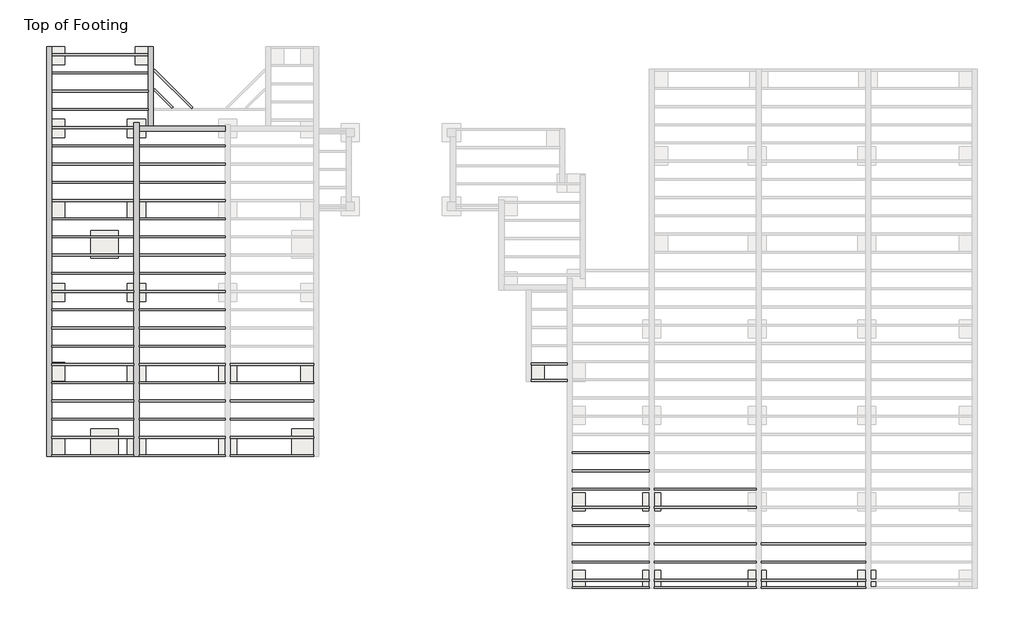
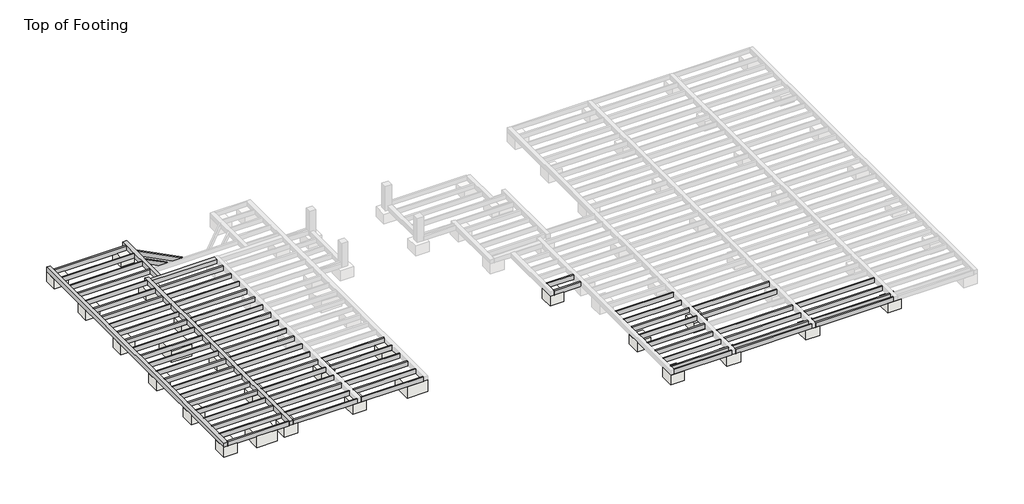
# One storey, part 1 of 3: 74 beams, 25 slabs.
"""IFC4 building model written with IfcOpenShell, lengths in millimetres."""

import ifcopenshell
import ifcopenshell.guid

model = None  # the IFC model being written
_history = None  # IfcOwnerHistory: only IFC2X3 demands one
_inside = {}  # id of a spatial element -> (the spatial element, [elements in it])
_under = {}  # id of a project, library or spatial element -> (it, [spatial elements below it])
_declared = {}  # id of a project -> (the project, [libraries it declares])
_typed = {}  # id of a type object -> (the type object, [elements of that type])
_made_of = {}  # id of a material, layer set ... -> (it, [elements and type objects made of it])


def new_model(schema):
    """Start an empty IFC model of exactly this schema.

    Asked for "IFC4X3", IfcOpenShell would pick the latest addendum, in which some entities
    have other attributes; the version numbers below select the first issue.
    IFC2X3 requires an IfcOwnerHistory on every rooted entity: one is made here for all.
    """
    global model, _history
    if schema == "IFC4X3":
        model = ifcopenshell.file(schema_version=(4, 3, 0, 0))
    else:
        model = ifcopenshell.file(schema=schema)
    _inside.clear()
    _under.clear()
    _declared.clear()
    _typed.clear()
    _made_of.clear()
    _history = None
    if model.schema == "IFC2X3":
        org = make("IfcOrganization", Name="unknown")
        user = make(
            "IfcPersonAndOrganization",
            ThePerson=make("IfcPerson", FamilyName="unknown"),
            TheOrganization=org,
        )
        app = make(
            "IfcApplication",
            ApplicationDeveloper=org,
            Version="unknown",
            ApplicationFullName="unknown",
            ApplicationIdentifier="unknown",
        )
        _history = make(
            "IfcOwnerHistory",
            OwningUser=user,
            OwningApplication=app,
            ChangeAction="ADDED",
            CreationDate=0,
        )
    return model


def make(cls, **values):
    """One entity of the class cls with the attributes given. An attribute that is None is left unset."""
    return model.create_entity(
        cls, **{name: value for name, value in values.items() if value is not None}
    )


def rooted(cls, **values):
    """An entity with a GlobalId (a new one), such as an element, a storey or a relation."""
    return make(cls, GlobalId=ifcopenshell.guid.new(), OwnerHistory=_history, **values)


def si_unit(unit_type, name, prefix=None):
    """IfcSIUnit, for example si_unit("LENGTHUNIT", "METRE", prefix="MILLI")."""
    return make("IfcSIUnit", UnitType=unit_type, Prefix=prefix, Name=name)


def assignment(units):
    """IfcUnitAssignment: the units of a project."""
    return None if units is None else make("IfcUnitAssignment", Units=units)


def point(xyz):
    """IfcCartesianPoint."""
    return None if xyz is None else make("IfcCartesianPoint", Coordinates=xyz)


def direction(xyz):
    """IfcDirection."""
    return None if xyz is None else make("IfcDirection", DirectionRatios=xyz)


def frame(location, z_axis=None, x_axis=None):
    """IfcAxis2Placement3D, a coordinate frame: its origin and axes. An axis left out is left unset."""
    return make(
        "IfcAxis2Placement3D",
        Location=point(location),
        Axis=direction(z_axis),
        RefDirection=direction(x_axis),
    )


def origin():
    """The frame at (0, 0, 0) with its axes left unset."""
    return frame((0.0, 0.0, 0.0))


def place(relative_to, where):
    """IfcLocalPlacement: puts the frame where relative to a parent placement (None: the world)."""
    return make(
        "IfcLocalPlacement", PlacementRelTo=relative_to, RelativePlacement=where
    )


def context(
    kind, dimensions, precision=None, world=None, true_north=None, identifier=None
):
    """IfcGeometricRepresentationContext, for example the 3D "Model" context."""
    return make(
        "IfcGeometricRepresentationContext",
        ContextIdentifier=identifier,
        ContextType=kind,
        CoordinateSpaceDimension=dimensions,
        Precision=precision,
        WorldCoordinateSystem=world,
        TrueNorth=true_north,
    )


def project(units=None, contexts=None):
    """IfcProject with its units and contexts."""
    return rooted(
        "IfcProject",
        Name="project",
        RepresentationContexts=contexts,
        UnitsInContext=assignment(units),
    )


def spatial(cls, under=None, at=None, **own):
    """A site, building, storey or space (cls), placed at a placement, below another one or the project."""
    s = rooted(cls, ObjectPlacement=at, **own)
    if under is not None:
        _under.setdefault(under.id(), (under, []))[1].append(s)
    return s


def polyline(points):
    """IfcPolyline through the points."""
    return make("IfcPolyline", Points=[point(p) for p in points])


def outline(outer, holes=None, kind="AREA"):
    """IfcArbitraryClosedProfileDef: a profile drawn as a closed curve; with holes, ...WithVoids."""
    if holes is None:
        return make("IfcArbitraryClosedProfileDef", ProfileType=kind, OuterCurve=outer)
    return make(
        "IfcArbitraryProfileDefWithVoids",
        ProfileType=kind,
        OuterCurve=outer,
        InnerCurves=holes,
    )


def extrude(swept, where, along, depth):
    """IfcExtrudedAreaSolid: the profile swept, set in the frame where, extruded along a direction by depth."""
    return make(
        "IfcExtrudedAreaSolid",
        SweptArea=swept,
        Position=where,
        ExtrudedDirection=direction(along),
        Depth=depth,
    )


def shape(context_of_items, identifier, shape_type, items):
    """IfcShapeRepresentation: the items that make up one representation, for example the "Body"."""
    return make(
        "IfcShapeRepresentation",
        ContextOfItems=context_of_items,
        RepresentationIdentifier=identifier,
        RepresentationType=shape_type,
        Items=items,
    )


def source(mapping_origin, context_of_items, identifier, shape_type, items):
    """IfcRepresentationMap: a shape defined once, which mapped items show again and again."""
    return make(
        "IfcRepresentationMap",
        MappingOrigin=mapping_origin,
        MappedRepresentation=shape(context_of_items, identifier, shape_type, items),
    )


def transform(
    local_origin,
    x_axis=None,
    y_axis=None,
    z_axis=None,
    scale=None,
    scale2=None,
    scale3=None,
    uniform=True,
):
    """IfcCartesianTransformationOperator3D, or its non-uniform kind. x_axis, y_axis, z_axis: its Axis1, 2, 3."""
    if uniform:
        return make(
            "IfcCartesianTransformationOperator3D",
            Axis1=direction(x_axis),
            Axis2=direction(y_axis),
            LocalOrigin=point(local_origin),
            Scale=scale,
            Axis3=direction(z_axis),
        )
    return make(
        "IfcCartesianTransformationOperator3DnonUniform",
        Axis1=direction(x_axis),
        Axis2=direction(y_axis),
        LocalOrigin=point(local_origin),
        Scale=scale,
        Axis3=direction(z_axis),
        Scale2=scale2,
        Scale3=scale3,
    )


def mapped(mapping_source, mapping_target):
    """IfcMappedItem: shows the shape of a source again, moved by a transform."""
    return make(
        "IfcMappedItem", MappingSource=mapping_source, MappingTarget=mapping_target
    )


def made_of(thing, what):
    """Note that an element or type object is made of a material, layer set ...; save() writes the relation."""
    if what is not None:
        _made_of.setdefault(what.id(), (what, []))[1].append(thing)
    return thing


def element(
    cls,
    number,
    at=None,
    inside=None,
    cuts=None,
    type_object=None,
    material=None,
    context=None,
    identifier="Body",
    shape_type=None,
    held_by="IfcProductDefinitionShape",
    body=None,
    shapes=None,
    **own,
):
    """One element of the class cls, such as IfcWall. Its Tag is "e" and its number.

    at: its placement. inside: the storey or other place that contains it. cuts: it is an
    opening in that element (IfcRelVoidsElement). A single representation is given by context,
    identifier, shape_type and body (its items); several are given by shapes. held_by: the class
    of the entity that holds the representations. save() writes the other relations.
    """
    e = rooted(cls, Tag="e%d" % number, ObjectPlacement=at, **own)
    if body is not None:
        shapes = [shape(context, identifier, shape_type, body)]
    if shapes is not None:
        e.Representation = make(held_by, Representations=shapes)
    if inside is not None:
        _inside.setdefault(inside.id(), (inside, []))[1].append(e)
    if cuts is not None:
        rooted(
            "IfcRelVoidsElement", RelatingBuildingElement=cuts, RelatedOpeningElement=e
        )
    if type_object is not None:
        _typed.setdefault(type_object.id(), (type_object, []))[1].append(e)
    return made_of(e, material)


def aggregate(whole, parts):
    """IfcRelAggregates: a whole, such as a stair, and the parts it consists of."""
    return rooted("IfcRelAggregates", RelatingObject=whole, RelatedObjects=parts)


def save(model, path):
    """Write the relations noted so far, then the file.

    IfcRelAggregates (storeys below a building ...), IfcRelContainedInSpatialStructure (elements
    in a storey), IfcRelDefinesByType, IfcRelAssociatesMaterial and IfcRelDeclares: one each for
    every whole, place, type object, material and project.
    """
    for whole, parts in _under.values():
        aggregate(whole, parts)
    for where, things in _inside.values():
        rooted(
            "IfcRelContainedInSpatialStructure",
            RelatedElements=things,
            RelatingStructure=where,
        )
    for kind, things in _typed.values():
        rooted("IfcRelDefinesByType", RelatedObjects=things, RelatingType=kind)
    for what, things in _made_of.values():
        rooted("IfcRelAssociatesMaterial", RelatedObjects=things, RelatingMaterial=what)
    for by, libraries in _declared.values():
        rooted("IfcRelDeclares", RelatingContext=by, RelatedDefinitions=libraries)
    model.write(path)


def dimension_lumber_1_2x_x6_dd3bafa6(model_context):
    return source(origin(), model_context, "Body", "SweptSolid", [
        extrude(outline(polyline([(958.85, 19.05), (958.85, -19.05), (-958.85, -19.05), (-958.85, 19.05), (958.85, 19.05)])), frame((0.0, 0.0, -69.85), z_axis=(0.0, 0.0, 1.0), x_axis=(1.0, 0.0, 0.0)), (0.0, 0.0, 1.0), 139.7),
    ])


def dimension_lumber_1_2x_x6_aa5b3a59(model_context):
    return source(origin(), model_context, "Body", "SweptSolid", [
        extrude(outline(polyline([(917.575, 19.05), (917.575, -19.05), (-917.575, -19.05), (-917.575, 19.05), (917.575, 19.05)])), frame((0.0, 0.0, -69.85), z_axis=(0.0, 0.0, 1.0), x_axis=(1.0, 0.0, 0.0)), (0.0, 0.0, 1.0), 139.7),
    ])


def dimension_lumber_1_2x_x6_194c576a(model_context):
    return source(origin(), model_context, "Body", "SweptSolid", [
        extrude(outline(polyline([(1162.05, 19.05), (1162.05, -19.05), (-1162.05, -19.05), (-1162.05, 19.05), (1162.05, 19.05)])), frame((0.0, 0.0, -69.85), z_axis=(0.0, 0.0, 1.0), x_axis=(1.0, 0.0, 0.0)), (0.0, 0.0, 1.0), 139.7),
    ])


def dimension_lumber_1_2x_x6_e8a41e7e(model_context):
    return source(origin(), model_context, "Body", "SweptSolid", [
        extrude(outline(polyline([(930.275, 19.05), (930.275, -19.05), (-930.275, -19.05), (-930.275, 19.05), (930.275, 19.05)])), frame((0.0, 0.0, -69.85), z_axis=(0.0, 0.0, 1.0), x_axis=(1.0, 0.0, 0.0)), (0.0, 0.0, 1.0), 139.7),
    ])


def dimension_lumber_1_2x_x6_92016964(model_context):
    return source(origin(), model_context, "Body", "SweptSolid", [
        extrude(outline(polyline([(574.2575614, -19.05), (-628.1390981, -19.05), (-628.1390981, 19.05), (574.2575614, 19.05), (574.2575614, -19.05)])), frame((0.0, 0.0, -69.85), z_axis=(0.0, 0.0, 1.0), x_axis=(1.0, 0.0, 0.0)), (0.0, 0.0, 1.0), 139.7),
    ])


def dimension_lumber_1_2x_x6_3ebd03bc(model_context):
    return source(origin(), model_context, "Body", "SweptSolid", [
        extrude(outline(polyline([(270.1501681, -19.05), (-315.3180038, -19.05), (-315.3180038, 19.05), (270.1501681, 19.05), (270.1501681, -19.05)])), frame((0.0, 0.0, -69.85), z_axis=(0.0, 0.0, 1.0), x_axis=(1.0, 0.0, 0.0)), (0.0, 0.0, 1.0), 139.7),
    ])


def dimension_lumber_1_2x_x6_848c9500(model_context):
    return source(origin(), model_context, "Body", "SweptSolid", [
        extrude(outline(polyline([(857.25, 19.05), (857.25, -19.05), (-857.25, -19.05), (-857.25, 19.05), (857.25, 19.05)])), frame((0.0, 0.0, -69.85), z_axis=(0.0, 0.0, 1.0), x_axis=(1.0, 0.0, 0.0)), (0.0, 0.0, 1.0), 139.7),
    ])


def dimension_lumber_1_2x_x6_d0225624(model_context):
    return source(origin(), model_context, "Body", "SweptSolid", [
        extrude(outline(polyline([(400.05, 19.05), (400.05, -19.05), (-400.05, -19.05), (-400.05, 19.05), (400.05, 19.05)])), frame((0.0, 0.0, -69.85), z_axis=(0.0, 0.0, 1.0), x_axis=(1.0, 0.0, 0.0)), (0.0, 0.0, 1.0), 139.7),
    ])


def dimension_lumber_1_2x_x6_9289383a(model_context):
    return source(origin(), model_context, "Body", "SweptSolid", [
        extrude(outline(polyline([(1133.475, 19.05), (1133.475, -19.05), (-1133.475, -19.05), (-1133.475, 19.05), (1133.475, 19.05)])), frame((0.0, 0.0, -69.85), z_axis=(0.0, 0.0, 1.0), x_axis=(1.0, 0.0, 0.0)), (0.0, 0.0, 1.0), 139.7),
    ])


def dimension_lumber_1_2x_x6_97439537(model_context):
    return source(origin(), model_context, "Body", "SweptSolid", [
        extrude(outline(polyline([(1076.8076, 19.05), (1076.8076, -19.05), (-1076.8076, -19.05), (-1076.8076, 19.05), (1076.8076, 19.05)])), frame((0.0, 0.0, -69.85), z_axis=(0.0, 0.0, 1.0), x_axis=(1.0, 0.0, 0.0)), (0.0, 0.0, 1.0), 139.7),
    ])


def dimension_lumber_3_2x_x6_4af72cf2(model_context):
    return source(origin(), model_context, "Body", "SweptSolid", [
        extrude(outline(polyline([(3796.2332, 57.15), (3796.2332, -57.15), (-3648.6662069, -57.15), (-3648.6662069, 57.15), (3796.2332, 57.15)])), frame((0.0, 0.0, -69.85), z_axis=(0.0, 0.0, 1.0), x_axis=(1.0, 0.0, 0.0)), (0.0, 0.0, 1.0), 139.7),
    ])


def dimension_lumber_3_2x_x6_f16df4bf(model_context):
    return source(origin(), model_context, "Body", "SweptSolid", [
        extrude(outline(polyline([(4597.2476, 57.15), (4597.2476, -57.15), (-4546.7524, -57.15), (-4546.7524, 57.15), (4597.2476, 57.15)])), frame((0.0, 0.0, -69.85), z_axis=(0.0, 0.0, 1.0), x_axis=(1.0, 0.0, 0.0)), (0.0, 0.0, 1.0), 139.7),
    ])


def dimension_lumber_3_2x_x6_a999fe85(model_context):
    return source(origin(), model_context, "Body", "SweptSolid", [
        extrude(outline(polyline([(986.6376, 57.15), (986.6376, -57.15), (-929.4876, -57.15), (-929.4876, 57.15), (986.6376, 57.15)])), frame((0.0, 0.0, -69.85), z_axis=(0.0, 0.0, 1.0), x_axis=(1.0, 0.0, 0.0)), (0.0, 0.0, 1.0), 139.7),
    ])


def dimension_lumber_3_2x_x6_5fe60f67(model_context):
    return source(origin(), model_context, "Body", "SweptSolid", [
        extrude(outline(polyline([(746.7854, 57.15), (746.7854, -57.15), (-1024.8646, -57.15), (-1024.8646, 57.15), (746.7854, 57.15)])), frame((0.0, 0.0, -69.85), z_axis=(0.0, 0.0, 1.0), x_axis=(1.0, 0.0, 0.0)), (0.0, 0.0, 1.0), 139.7),
    ])


def footing_rectangular_16x16x14_90ff128c(model_context):
    return source(origin(), model_context, "Body", "SweptSolid", [
        extrude(outline(polyline([(203.2, 203.2), (203.2, -203.2), (-203.2, -203.2), (-203.2, 203.2), (203.2, 203.2)])), frame((0.0, 0.0, -304.8), z_axis=(0.0, 0.0, 1.0), x_axis=(1.0, 0.0, 0.0)), (0.0, 0.0, 1.0), 304.8),
    ])


def footing_rectangular_pergola_footing_7bc68983(model_context):
    return source(origin(), model_context, "Body", "SweptSolid", [
        extrude(outline(polyline([(304.8, 304.8), (304.8, -304.8), (-304.8, -304.8), (-304.8, 304.8), (304.8, 304.8)])), frame((0.0, 0.0, -355.6), z_axis=(0.0, 0.0, 1.0), x_axis=(1.0, 0.0, 0.0)), (0.0, 0.0, 1.0), 355.6),
    ])


model = new_model("IFC4")

# Units and contexts
model_context = context("Model", 3, world=origin())
ifc_project = project(units=[si_unit("LENGTHUNIT", "METRE", prefix="MILLI")], contexts=[model_context])

# Site, building, storey
site = spatial("IfcSite", under=ifc_project)
building = spatial("IfcBuilding", under=site)
storey = spatial("IfcBuildingStorey", under=building, Name="Top of Footing", Elevation=-158.75)

# Beams
placement = place(None, origin())
dimension_lumber_1_2x_x6_shape = dimension_lumber_1_2x_x6_dd3bafa6(model_context)
element("IfcBeam", 1, ObjectType="Dimension Lumber (1) 2x : x6", at=placement, inside=storey, context=model_context, shape_type="MappedRepresentation", body=[
    mapped(dimension_lumber_1_2x_x6_shape, transform((-318.1211294, -3411.7939898, -88.9), x_axis=(1.0, 0.0, 0.0), y_axis=(0.0, 1.0, 0.0), z_axis=(0.0, 0.0, 1.0))),
])
element("IfcBeam", 2, ObjectType="Dimension Lumber (1) 2x : x6", at=placement, inside=storey, context=model_context, shape_type="MappedRepresentation", body=[
    mapped(dimension_lumber_1_2x_x6_shape, transform((-318.1211294, -3818.1939898, -88.9), x_axis=(1.0, 0.0, 0.0), y_axis=(0.0, 1.0, 0.0), z_axis=(0.0, 0.0, 1.0))),
])
element("IfcBeam", 3, ObjectType="Dimension Lumber (1) 2x : x6", at=placement, inside=storey, context=model_context, shape_type="MappedRepresentation", body=[
    mapped(dimension_lumber_1_2x_x6_shape, transform((-318.1211294, -4224.5939898, -88.9), x_axis=(1.0, 0.0, 0.0), y_axis=(0.0, 1.0, 0.0), z_axis=(0.0, 0.0, 1.0))),
])
element("IfcBeam", 4, ObjectType="Dimension Lumber (1) 2x : x6", at=placement, inside=storey, context=model_context, shape_type="MappedRepresentation", body=[
    mapped(dimension_lumber_1_2x_x6_shape, transform((-318.1211294, -4630.9939898, -88.9), x_axis=(1.0, 0.0, 0.0), y_axis=(0.0, 1.0, 0.0), z_axis=(0.0, 0.0, 1.0))),
])
element("IfcBeam", 5, ObjectType="Dimension Lumber (1) 2x : x6", at=placement, inside=storey, context=model_context, shape_type="MappedRepresentation", body=[
    mapped(dimension_lumber_1_2x_x6_shape, transform((-318.1211294, -5037.3939898, -88.9), x_axis=(1.0, 0.0, 0.0), y_axis=(0.0, 1.0, 0.0), z_axis=(0.0, 0.0, 1.0))),
])
element("IfcBeam", 6, ObjectType="Dimension Lumber (1) 2x : x6", at=placement, inside=storey, context=model_context, shape_type="MappedRepresentation", body=[
    mapped(dimension_lumber_1_2x_x6_shape, transform((-318.1211294, -5443.7939898, -88.9), x_axis=(1.0, 0.0, 0.0), y_axis=(0.0, 1.0, 0.0), z_axis=(0.0, 0.0, 1.0))),
])
element("IfcBeam", 7, ObjectType="Dimension Lumber (1) 2x : x6", at=placement, inside=storey, context=model_context, shape_type="MappedRepresentation", body=[
    mapped(dimension_lumber_1_2x_x6_shape, transform((-318.1211294, -5850.1939898, -88.9), x_axis=(1.0, 0.0, 0.0), y_axis=(0.0, 1.0, 0.0), z_axis=(0.0, 0.0, 1.0))),
])
element("IfcBeam", 8, ObjectType="Dimension Lumber (1) 2x : x6", at=placement, inside=storey, context=model_context, shape_type="MappedRepresentation", body=[
    mapped(dimension_lumber_1_2x_x6_shape, transform((-318.1211294, -6256.5939898, -88.9), x_axis=(1.0, 0.0, 0.0), y_axis=(0.0, 1.0, 0.0), z_axis=(0.0, 0.0, 1.0))),
])
element("IfcBeam", 9, ObjectType="Dimension Lumber (1) 2x : x6", at=placement, inside=storey, context=model_context, shape_type="MappedRepresentation", body=[
    mapped(dimension_lumber_1_2x_x6_shape, transform((-318.1211294, -6662.9939898, -88.9), x_axis=(1.0, 0.0, 0.0), y_axis=(0.0, 1.0, 0.0), z_axis=(0.0, 0.0, 1.0))),
])
element("IfcBeam", 10, ObjectType="Dimension Lumber (1) 2x : x6", at=placement, inside=storey, context=model_context, shape_type="MappedRepresentation", body=[
    mapped(dimension_lumber_1_2x_x6_shape, transform((-318.1211294, -7069.3939898, -88.9), x_axis=(1.0, 0.0, 0.0), y_axis=(0.0, 1.0, 0.0), z_axis=(0.0, 0.0, 1.0))),
])
element("IfcBeam", 11, ObjectType="Dimension Lumber (1) 2x : x6", at=placement, inside=storey, context=model_context, shape_type="MappedRepresentation", body=[
    mapped(dimension_lumber_1_2x_x6_shape, transform((-318.1211294, -7475.7939898, -88.9), x_axis=(1.0, 0.0, 0.0), y_axis=(0.0, 1.0, 0.0), z_axis=(0.0, 0.0, 1.0))),
])
element("IfcBeam", 12, ObjectType="Dimension Lumber (1) 2x : x6", at=placement, inside=storey, context=model_context, shape_type="MappedRepresentation", body=[
    mapped(dimension_lumber_1_2x_x6_shape, transform((-318.1211294, -7882.1939898, -88.9), x_axis=(1.0, 0.0, 0.0), y_axis=(0.0, 1.0, 0.0), z_axis=(0.0, 0.0, 1.0))),
])
element("IfcBeam", 13, ObjectType="Dimension Lumber (1) 2x : x6", at=placement, inside=storey, context=model_context, shape_type="MappedRepresentation", body=[
    mapped(dimension_lumber_1_2x_x6_shape, transform((-318.1211294, -8288.5939898, -88.9), x_axis=(1.0, 0.0, 0.0), y_axis=(0.0, 1.0, 0.0), z_axis=(0.0, 0.0, 1.0))),
])
element("IfcBeam", 14, ObjectType="Dimension Lumber (1) 2x : x6", at=placement, inside=storey, context=model_context, shape_type="MappedRepresentation", body=[
    mapped(dimension_lumber_1_2x_x6_shape, transform((-318.1211294, -8694.9939898, -88.9), x_axis=(1.0, 0.0, 0.0), y_axis=(0.0, 1.0, 0.0), z_axis=(0.0, 0.0, 1.0))),
])
element("IfcBeam", 15, ObjectType="Dimension Lumber (1) 2x : x6", at=placement, inside=storey, context=model_context, shape_type="MappedRepresentation", body=[
    mapped(dimension_lumber_1_2x_x6_shape, transform((-318.1211294, -9101.3939898, -88.9), x_axis=(1.0, 0.0, 0.0), y_axis=(0.0, 1.0, 0.0), z_axis=(0.0, 0.0, 1.0))),
])
element("IfcBeam", 16, ObjectType="Dimension Lumber (1) 2x : x6", at=placement, inside=storey, context=model_context, shape_type="MappedRepresentation", body=[
    mapped(dimension_lumber_1_2x_x6_shape, transform((-318.1211294, -9507.7939898, -88.9), x_axis=(1.0, 0.0, 0.0), y_axis=(0.0, 1.0, 0.0), z_axis=(0.0, 0.0, 1.0))),
])
element("IfcBeam", 17, ObjectType="Dimension Lumber (1) 2x : x6", at=placement, inside=storey, context=model_context, shape_type="MappedRepresentation", body=[
    mapped(dimension_lumber_1_2x_x6_shape, transform((-318.1211294, -9914.1939898, -88.9), x_axis=(1.0, 0.0, 0.0), y_axis=(0.0, 1.0, 0.0), z_axis=(0.0, 0.0, 1.0))),
])
dimension_lumber_1_2x_x6_2_shape = dimension_lumber_1_2x_x6_aa5b3a59(model_context)
element("IfcBeam", 18, ObjectType="Dimension Lumber (1) 2x : x6", at=placement, inside=storey, context=model_context, shape_type="MappedRepresentation", body=[
    mapped(dimension_lumber_1_2x_x6_2_shape, transform((-2308.8461294, -3005.3939898, -88.9), x_axis=(-1.0, 0.0, 0.0), y_axis=(0.0, -1.0, 0.0), z_axis=(0.0, 0.0, 1.0))),
])
element("IfcBeam", 19, ObjectType="Dimension Lumber (1) 2x : x6", at=placement, inside=storey, context=model_context, shape_type="MappedRepresentation", body=[
    mapped(dimension_lumber_1_2x_x6_2_shape, transform((-2308.8461294, -3411.7939898, -88.9), x_axis=(-1.0, 0.0, 0.0), y_axis=(0.0, -1.0, 0.0), z_axis=(0.0, 0.0, 1.0))),
])
element("IfcBeam", 20, ObjectType="Dimension Lumber (1) 2x : x6", at=placement, inside=storey, context=model_context, shape_type="MappedRepresentation", body=[
    mapped(dimension_lumber_1_2x_x6_2_shape, transform((-2308.8461294, -3818.1939898, -88.9), x_axis=(-1.0, 0.0, 0.0), y_axis=(0.0, -1.0, 0.0), z_axis=(0.0, 0.0, 1.0))),
])
element("IfcBeam", 21, ObjectType="Dimension Lumber (1) 2x : x6", at=placement, inside=storey, context=model_context, shape_type="MappedRepresentation", body=[
    mapped(dimension_lumber_1_2x_x6_2_shape, transform((-2308.8461294, -4224.5939898, -88.9), x_axis=(-1.0, 0.0, 0.0), y_axis=(0.0, -1.0, 0.0), z_axis=(0.0, 0.0, 1.0))),
])
element("IfcBeam", 22, ObjectType="Dimension Lumber (1) 2x : x6", at=placement, inside=storey, context=model_context, shape_type="MappedRepresentation", body=[
    mapped(dimension_lumber_1_2x_x6_2_shape, transform((-2308.8461294, -4630.9939898, -88.9), x_axis=(-1.0, 0.0, 0.0), y_axis=(0.0, -1.0, 0.0), z_axis=(0.0, 0.0, 1.0))),
])
element("IfcBeam", 23, ObjectType="Dimension Lumber (1) 2x : x6", at=placement, inside=storey, context=model_context, shape_type="MappedRepresentation", body=[
    mapped(dimension_lumber_1_2x_x6_2_shape, transform((-2308.8461294, -5037.3939898, -88.9), x_axis=(-1.0, 0.0, 0.0), y_axis=(0.0, -1.0, 0.0), z_axis=(0.0, 0.0, 1.0))),
])
element("IfcBeam", 24, ObjectType="Dimension Lumber (1) 2x : x6", at=placement, inside=storey, context=model_context, shape_type="MappedRepresentation", body=[
    mapped(dimension_lumber_1_2x_x6_2_shape, transform((-2308.8461294, -5443.7939898, -88.9), x_axis=(-1.0, 0.0, 0.0), y_axis=(0.0, -1.0, 0.0), z_axis=(0.0, 0.0, 1.0))),
])
element("IfcBeam", 25, ObjectType="Dimension Lumber (1) 2x : x6", at=placement, inside=storey, context=model_context, shape_type="MappedRepresentation", body=[
    mapped(dimension_lumber_1_2x_x6_2_shape, transform((-2308.8461294, -5850.1939898, -88.9), x_axis=(-1.0, 0.0, 0.0), y_axis=(0.0, -1.0, 0.0), z_axis=(0.0, 0.0, 1.0))),
])
element("IfcBeam", 26, ObjectType="Dimension Lumber (1) 2x : x6", at=placement, inside=storey, context=model_context, shape_type="MappedRepresentation", body=[
    mapped(dimension_lumber_1_2x_x6_2_shape, transform((-2308.8461294, -6256.5939898, -88.9), x_axis=(-1.0, 0.0, 0.0), y_axis=(0.0, -1.0, 0.0), z_axis=(0.0, 0.0, 1.0))),
])
element("IfcBeam", 27, ObjectType="Dimension Lumber (1) 2x : x6", at=placement, inside=storey, context=model_context, shape_type="MappedRepresentation", body=[
    mapped(dimension_lumber_1_2x_x6_2_shape, transform((-2308.8461294, -6662.9939898, -88.9), x_axis=(-1.0, 0.0, 0.0), y_axis=(0.0, -1.0, 0.0), z_axis=(0.0, 0.0, 1.0))),
])
element("IfcBeam", 28, ObjectType="Dimension Lumber (1) 2x : x6", at=placement, inside=storey, context=model_context, shape_type="MappedRepresentation", body=[
    mapped(dimension_lumber_1_2x_x6_2_shape, transform((-2308.8461294, -7069.3939898, -88.9), x_axis=(-1.0, 0.0, 0.0), y_axis=(0.0, -1.0, 0.0), z_axis=(0.0, 0.0, 1.0))),
])
element("IfcBeam", 29, ObjectType="Dimension Lumber (1) 2x : x6", at=placement, inside=storey, context=model_context, shape_type="MappedRepresentation", body=[
    mapped(dimension_lumber_1_2x_x6_2_shape, transform((-2308.8461294, -7475.7939898, -88.9), x_axis=(-1.0, 0.0, 0.0), y_axis=(0.0, -1.0, 0.0), z_axis=(0.0, 0.0, 1.0))),
])
element("IfcBeam", 30, ObjectType="Dimension Lumber (1) 2x : x6", at=placement, inside=storey, context=model_context, shape_type="MappedRepresentation", body=[
    mapped(dimension_lumber_1_2x_x6_2_shape, transform((-2308.8461294, -7882.1939898, -88.9), x_axis=(-1.0, 0.0, 0.0), y_axis=(0.0, -1.0, 0.0), z_axis=(0.0, 0.0, 1.0))),
])
element("IfcBeam", 31, ObjectType="Dimension Lumber (1) 2x : x6", at=placement, inside=storey, context=model_context, shape_type="MappedRepresentation", body=[
    mapped(dimension_lumber_1_2x_x6_2_shape, transform((-2308.8461294, -8288.5939898, -88.9), x_axis=(-1.0, 0.0, 0.0), y_axis=(0.0, -1.0, 0.0), z_axis=(0.0, 0.0, 1.0))),
])
element("IfcBeam", 32, ObjectType="Dimension Lumber (1) 2x : x6", at=placement, inside=storey, context=model_context, shape_type="MappedRepresentation", body=[
    mapped(dimension_lumber_1_2x_x6_2_shape, transform((-2308.8461294, -8694.9939898, -88.9), x_axis=(-1.0, 0.0, 0.0), y_axis=(0.0, -1.0, 0.0), z_axis=(0.0, 0.0, 1.0))),
])
element("IfcBeam", 33, ObjectType="Dimension Lumber (1) 2x : x6", at=placement, inside=storey, context=model_context, shape_type="MappedRepresentation", body=[
    mapped(dimension_lumber_1_2x_x6_2_shape, transform((-2308.8461294, -9101.3939898, -88.9), x_axis=(-1.0, 0.0, 0.0), y_axis=(0.0, -1.0, 0.0), z_axis=(0.0, 0.0, 1.0))),
])
element("IfcBeam", 34, ObjectType="Dimension Lumber (1) 2x : x6", at=placement, inside=storey, context=model_context, shape_type="MappedRepresentation", body=[
    mapped(dimension_lumber_1_2x_x6_2_shape, transform((-2308.8461294, -9507.7939898, -88.9), x_axis=(-1.0, 0.0, 0.0), y_axis=(0.0, -1.0, 0.0), z_axis=(0.0, 0.0, 1.0))),
])
element("IfcBeam", 35, ObjectType="Dimension Lumber (1) 2x : x6", at=placement, inside=storey, context=model_context, shape_type="MappedRepresentation", body=[
    mapped(dimension_lumber_1_2x_x6_2_shape, transform((-2308.8461294, -9914.1939898, -88.9), x_axis=(-1.0, 0.0, 0.0), y_axis=(0.0, -1.0, 0.0), z_axis=(0.0, 0.0, 1.0))),
])
element("IfcBeam", 36, ObjectType="Dimension Lumber (1) 2x : x6", at=placement, inside=storey, context=model_context, shape_type="MappedRepresentation", body=[
    mapped(dimension_lumber_1_2x_x6_2_shape, transform((-2308.8461294, -10320.5939898, -88.9), x_axis=(-1.0, 0.0, 0.0), y_axis=(0.0, -1.0, 0.0), z_axis=(0.0, 0.0, 1.0))),
])
dimension_lumber_1_2x_x6_3_shape = dimension_lumber_1_2x_x6_194c576a(model_context)
element("IfcBeam", 37, ObjectType="Dimension Lumber (1) 2x : x6", at=placement, inside=storey, context=model_context, shape_type="MappedRepresentation", body=[
    mapped(dimension_lumber_1_2x_x6_3_shape, transform((13753.4788706, -12289.0939898, -88.9), x_axis=(1.0, 0.0, 0.0), y_axis=(0.0, 1.0, 0.0), z_axis=(0.0, 0.0, 1.0))),
])
element("IfcBeam", 38, ObjectType="Dimension Lumber (1) 2x : x6", at=placement, inside=storey, context=model_context, shape_type="MappedRepresentation", body=[
    mapped(dimension_lumber_1_2x_x6_3_shape, transform((13753.4788706, -12695.4939898, -88.9), x_axis=(1.0, 0.0, 0.0), y_axis=(0.0, 1.0, 0.0), z_axis=(0.0, 0.0, 1.0))),
])
element("IfcBeam", 39, ObjectType="Dimension Lumber (1) 2x : x6", at=placement, inside=storey, context=model_context, shape_type="MappedRepresentation", body=[
    mapped(dimension_lumber_1_2x_x6_3_shape, transform((13753.4788706, -13101.8939898, -88.9), x_axis=(1.0, 0.0, 0.0), y_axis=(0.0, 1.0, 0.0), z_axis=(0.0, 0.0, 1.0))),
])
element("IfcBeam", 40, ObjectType="Dimension Lumber (1) 2x : x6", at=placement, inside=storey, context=model_context, shape_type="MappedRepresentation", body=[
    mapped(dimension_lumber_1_2x_x6_3_shape, transform((13753.4788706, -13266.9939898, -88.9), x_axis=(1.0, 0.0, 0.0), y_axis=(0.0, 1.0, 0.0), z_axis=(0.0, 0.0, 1.0))),
])
dimension_lumber_1_2x_x6_4_shape = dimension_lumber_1_2x_x6_e8a41e7e(model_context)
element("IfcBeam", 41, ObjectType="Dimension Lumber (1) 2x : x6", at=placement, inside=storey, context=model_context, shape_type="MappedRepresentation", body=[
    mapped(dimension_lumber_1_2x_x6_4_shape, transform((1685.3038706, -8288.5939898, -88.9), x_axis=(1.0, 0.0, 0.0), y_axis=(0.0, 1.0, 0.0), z_axis=(0.0, 0.0, 1.0))),
])
element("IfcBeam", 42, ObjectType="Dimension Lumber (1) 2x : x6", at=placement, inside=storey, context=model_context, shape_type="MappedRepresentation", body=[
    mapped(dimension_lumber_1_2x_x6_4_shape, transform((1685.3038706, -8694.9939898, -88.9), x_axis=(1.0, 0.0, 0.0), y_axis=(0.0, 1.0, 0.0), z_axis=(0.0, 0.0, 1.0))),
])
element("IfcBeam", 43, ObjectType="Dimension Lumber (1) 2x : x6", at=placement, inside=storey, context=model_context, shape_type="MappedRepresentation", body=[
    mapped(dimension_lumber_1_2x_x6_4_shape, transform((1685.3038706, -9101.3939898, -88.9), x_axis=(1.0, 0.0, 0.0), y_axis=(0.0, 1.0, 0.0), z_axis=(0.0, 0.0, 1.0))),
])
element("IfcBeam", 44, ObjectType="Dimension Lumber (1) 2x : x6", at=placement, inside=storey, context=model_context, shape_type="MappedRepresentation", body=[
    mapped(dimension_lumber_1_2x_x6_4_shape, transform((1685.3038706, -9507.7939898, -88.9), x_axis=(1.0, 0.0, 0.0), y_axis=(0.0, 1.0, 0.0), z_axis=(0.0, 0.0, 1.0))),
])
element("IfcBeam", 45, ObjectType="Dimension Lumber (1) 2x : x6", at=placement, inside=storey, context=model_context, shape_type="MappedRepresentation", body=[
    mapped(dimension_lumber_1_2x_x6_4_shape, transform((1685.3038706, -9914.1939898, -88.9), x_axis=(1.0, 0.0, 0.0), y_axis=(0.0, 1.0, 0.0), z_axis=(0.0, 0.0, 1.0))),
])
dimension_lumber_1_2x_x6_5_shape = dimension_lumber_1_2x_x6_92016964(model_context)
element("IfcBeam", 46, ObjectType="Dimension Lumber (1) 2x : x6", at=placement, inside=storey, context=model_context, shape_type="MappedRepresentation", body=[
    mapped(dimension_lumber_1_2x_x6_5_shape, transform((-538.9741294, -2122.3121898, -88.9), x_axis=(-0.7071067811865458, 0.7071067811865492, 0.0), y_axis=(-0.7071067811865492, -0.7071067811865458, 0.0), z_axis=(0.0, 0.0, 1.0))),
])
dimension_lumber_1_2x_x6_6_shape = dimension_lumber_1_2x_x6_3ebd03bc(model_context)
element("IfcBeam", 47, ObjectType="Dimension Lumber (1) 2x : x6", at=placement, inside=storey, context=model_context, shape_type="MappedRepresentation", body=[
    mapped(dimension_lumber_1_2x_x6_6_shape, transform((-754.0105294, -2337.3485898, -88.9), x_axis=(-0.7071067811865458, 0.7071067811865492, 0.0), y_axis=(-0.7071067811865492, -0.7071067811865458, 0.0), z_axis=(0.0, 0.0, 1.0))),
])
element("IfcBeam", 48, ObjectType="Dimension Lumber (1) 2x : x6", at=placement, inside=storey, context=model_context, shape_type="MappedRepresentation", body=[
    mapped(dimension_lumber_1_2x_x6_4_shape, transform((1685.3038706, -10320.5939898, -88.9), x_axis=(1.0, 0.0, 0.0), y_axis=(0.0, 1.0, 0.0), z_axis=(0.0, 0.0, 1.0))),
])
element("IfcBeam", 49, ObjectType="Dimension Lumber (1) 2x : x6", at=placement, inside=storey, context=model_context, shape_type="MappedRepresentation", body=[
    mapped(dimension_lumber_1_2x_x6_shape, transform((-318.1211294, -10320.5939898, -88.9), x_axis=(1.0, 0.0, 0.0), y_axis=(0.0, 1.0, 0.0), z_axis=(0.0, 0.0, 1.0))),
])
dimension_lumber_1_2x_x6_7_shape = dimension_lumber_1_2x_x6_848c9500(model_context)
element("IfcBeam", 50, ObjectType="Dimension Lumber (1) 2x : x6", at=placement, inside=storey, context=model_context, shape_type="MappedRepresentation", body=[
    mapped(dimension_lumber_1_2x_x6_7_shape, transform((9238.6288706, -13101.8939898, -88.9), x_axis=(-1.0, 0.0, 0.0), y_axis=(0.0, -1.0, 0.0), z_axis=(0.0, 0.0, 1.0))),
])
element("IfcBeam", 51, ObjectType="Dimension Lumber (1) 2x : x6", at=placement, inside=storey, context=model_context, shape_type="MappedRepresentation", body=[
    mapped(dimension_lumber_1_2x_x6_7_shape, transform((9238.6288706, -12695.4939898, -88.9), x_axis=(-1.0, 0.0, 0.0), y_axis=(0.0, -1.0, 0.0), z_axis=(0.0, 0.0, 1.0))),
])
element("IfcBeam", 52, ObjectType="Dimension Lumber (1) 2x : x6", at=placement, inside=storey, context=model_context, shape_type="MappedRepresentation", body=[
    mapped(dimension_lumber_1_2x_x6_7_shape, transform((9238.6288706, -12289.0939898, -88.9), x_axis=(-1.0, 0.0, 0.0), y_axis=(0.0, -1.0, 0.0), z_axis=(0.0, 0.0, 1.0))),
])
element("IfcBeam", 53, ObjectType="Dimension Lumber (1) 2x : x6", at=placement, inside=storey, context=model_context, shape_type="MappedRepresentation", body=[
    mapped(dimension_lumber_1_2x_x6_7_shape, transform((9238.6288706, -11882.6939898, -88.9), x_axis=(-1.0, 0.0, 0.0), y_axis=(0.0, -1.0, 0.0), z_axis=(0.0, 0.0, 1.0))),
])
element("IfcBeam", 54, ObjectType="Dimension Lumber (1) 2x : x6", at=placement, inside=storey, context=model_context, shape_type="MappedRepresentation", body=[
    mapped(dimension_lumber_1_2x_x6_7_shape, transform((9238.6288706, -11476.2939898, -88.9), x_axis=(-1.0, 0.0, 0.0), y_axis=(0.0, -1.0, 0.0), z_axis=(0.0, 0.0, 1.0))),
])
element("IfcBeam", 55, ObjectType="Dimension Lumber (1) 2x : x6", at=placement, inside=storey, context=model_context, shape_type="MappedRepresentation", body=[
    mapped(dimension_lumber_1_2x_x6_7_shape, transform((9238.6288706, -11069.8939898, -88.9), x_axis=(-1.0, 0.0, 0.0), y_axis=(0.0, -1.0, 0.0), z_axis=(0.0, 0.0, 1.0))),
])
element("IfcBeam", 56, ObjectType="Dimension Lumber (1) 2x : x6", at=placement, inside=storey, context=model_context, shape_type="MappedRepresentation", body=[
    mapped(dimension_lumber_1_2x_x6_7_shape, transform((9238.6288706, -10663.4939898, -88.9), x_axis=(-1.0, 0.0, 0.0), y_axis=(0.0, -1.0, 0.0), z_axis=(0.0, 0.0, 1.0))),
])
element("IfcBeam", 57, ObjectType="Dimension Lumber (1) 2x : x6", at=placement, inside=storey, context=model_context, shape_type="MappedRepresentation", body=[
    mapped(dimension_lumber_1_2x_x6_7_shape, transform((9238.6288706, -10257.0939898, -88.9), x_axis=(-1.0, 0.0, 0.0), y_axis=(0.0, -1.0, 0.0), z_axis=(0.0, 0.0, 1.0))),
])
element("IfcBeam", 58, ObjectType="Dimension Lumber (1) 2x : x6", at=placement, inside=storey, context=model_context, shape_type="MappedRepresentation", body=[
    mapped(dimension_lumber_1_2x_x6_7_shape, transform((9238.6288706, -13266.9939898, -88.9), x_axis=(-1.0, 0.0, 0.0), y_axis=(0.0, -1.0, 0.0), z_axis=(0.0, 0.0, 1.0))),
])
dimension_lumber_1_2x_x6_8_shape = dimension_lumber_1_2x_x6_d0225624(model_context)
element("IfcBeam", 59, ObjectType="Dimension Lumber (1) 2x : x6", at=placement, inside=storey, context=model_context, shape_type="MappedRepresentation", body=[
    mapped(dimension_lumber_1_2x_x6_8_shape, transform((7867.0288706, -8275.8939898, -88.9), x_axis=(-1.0, 0.0, 0.0), y_axis=(0.0, -1.0, 0.0), z_axis=(0.0, 0.0, 1.0))),
])
element("IfcBeam", 60, ObjectType="Dimension Lumber (1) 2x : x6", at=placement, inside=storey, context=model_context, shape_type="MappedRepresentation", body=[
    mapped(dimension_lumber_1_2x_x6_8_shape, transform((7867.0288706, -8644.1939898, -88.9), x_axis=(-1.0, 0.0, 0.0), y_axis=(0.0, -1.0, 0.0), z_axis=(0.0, 0.0, 1.0))),
])
dimension_lumber_1_2x_x6_9_shape = dimension_lumber_1_2x_x6_9289383a(model_context)
element("IfcBeam", 61, ObjectType="Dimension Lumber (1) 2x : x6", at=placement, inside=storey, context=model_context, shape_type="MappedRepresentation", body=[
    mapped(dimension_lumber_1_2x_x6_9_shape, transform((11343.6538706, -11069.8939898, -88.9), x_axis=(1.0, 0.0, 0.0), y_axis=(0.0, 1.0, 0.0), z_axis=(0.0, 0.0, 1.0))),
])
element("IfcBeam", 62, ObjectType="Dimension Lumber (1) 2x : x6", at=placement, inside=storey, context=model_context, shape_type="MappedRepresentation", body=[
    mapped(dimension_lumber_1_2x_x6_9_shape, transform((11343.6538706, -11476.2939898, -88.9), x_axis=(1.0, 0.0, 0.0), y_axis=(0.0, 1.0, 0.0), z_axis=(0.0, 0.0, 1.0))),
])
element("IfcBeam", 63, ObjectType="Dimension Lumber (1) 2x : x6", at=placement, inside=storey, context=model_context, shape_type="MappedRepresentation", body=[
    mapped(dimension_lumber_1_2x_x6_9_shape, transform((11343.6538706, -12289.0939898, -88.9), x_axis=(1.0, 0.0, 0.0), y_axis=(0.0, 1.0, 0.0), z_axis=(0.0, 0.0, 1.0))),
])
element("IfcBeam", 64, ObjectType="Dimension Lumber (1) 2x : x6", at=placement, inside=storey, context=model_context, shape_type="MappedRepresentation", body=[
    mapped(dimension_lumber_1_2x_x6_9_shape, transform((11343.6538706, -12695.4939898, -88.9), x_axis=(1.0, 0.0, 0.0), y_axis=(0.0, 1.0, 0.0), z_axis=(0.0, 0.0, 1.0))),
])
element("IfcBeam", 65, ObjectType="Dimension Lumber (1) 2x : x6", at=placement, inside=storey, context=model_context, shape_type="MappedRepresentation", body=[
    mapped(dimension_lumber_1_2x_x6_9_shape, transform((11343.6538706, -13101.8939898, -88.9), x_axis=(1.0, 0.0, 0.0), y_axis=(0.0, 1.0, 0.0), z_axis=(0.0, 0.0, 1.0))),
])
element("IfcBeam", 66, ObjectType="Dimension Lumber (1) 2x : x6", at=placement, inside=storey, context=model_context, shape_type="MappedRepresentation", body=[
    mapped(dimension_lumber_1_2x_x6_9_shape, transform((11343.6538706, -13266.9939898, -88.9), x_axis=(1.0, 0.0, 0.0), y_axis=(0.0, 1.0, 0.0), z_axis=(0.0, 0.0, 1.0))),
])
dimension_lumber_1_2x_x6_10_shape = dimension_lumber_1_2x_x6_97439537(model_context)
element("IfcBeam", 67, ObjectType="Dimension Lumber (1) 2x : x6", at=placement, inside=storey, context=model_context, shape_type="MappedRepresentation", body=[
    mapped(dimension_lumber_1_2x_x6_10_shape, transform((-2149.6135294, -1786.1939898, -88.9), x_axis=(-1.0, 0.0, 0.0), y_axis=(0.0, -1.0, 0.0), z_axis=(0.0, 0.0, 1.0))),
])
element("IfcBeam", 68, ObjectType="Dimension Lumber (1) 2x : x6", at=placement, inside=storey, context=model_context, shape_type="MappedRepresentation", body=[
    mapped(dimension_lumber_1_2x_x6_10_shape, transform((-2149.6135294, -2192.5939898, -88.9), x_axis=(-1.0, 0.0, 0.0), y_axis=(0.0, -1.0, 0.0), z_axis=(0.0, 0.0, 1.0))),
])
element("IfcBeam", 69, ObjectType="Dimension Lumber (1) 2x : x6", at=placement, inside=storey, context=model_context, shape_type="MappedRepresentation", body=[
    mapped(dimension_lumber_1_2x_x6_10_shape, transform((-2149.6135294, -2598.9939898, -88.9), x_axis=(-1.0, 0.0, 0.0), y_axis=(0.0, -1.0, 0.0), z_axis=(0.0, 0.0, 1.0))),
])
element("IfcBeam", 70, ObjectType="Dimension Lumber (1) 2x : x6", at=placement, inside=storey, context=model_context, shape_type="MappedRepresentation", body=[
    mapped(dimension_lumber_1_2x_x6_10_shape, transform((-2149.6135294, -1379.7939898, -88.9), x_axis=(-1.0, 0.0, 0.0), y_axis=(0.0, -1.0, 0.0), z_axis=(0.0, 0.0, 1.0))),
])
dimension_lumber_3_2x_x6_shape = dimension_lumber_3_2x_x6_4af72cf2(model_context)
element("IfcBeam", 71, ObjectType="Dimension Lumber (3) 2x : x6", at=placement, inside=storey, context=model_context, shape_type="MappedRepresentation", body=[
    mapped(dimension_lumber_3_2x_x6_shape, transform((-1334.1211294, -6543.4107898, -88.9), x_axis=(0.0, -1.0, 0.0), y_axis=(1.0, 0.0, 0.0), z_axis=(0.0, 0.0, 1.0))),
])
dimension_lumber_3_2x_x6_2_shape = dimension_lumber_3_2x_x6_f16df4bf(model_context)
element("IfcBeam", 72, ObjectType="Dimension Lumber (3) 2x : x6", at=placement, inside=storey, context=model_context, shape_type="MappedRepresentation", body=[
    mapped(dimension_lumber_3_2x_x6_2_shape, transform((-3283.5711294, -5742.3963898, -88.9), x_axis=(0.0, -1.0, 0.0), y_axis=(1.0, 0.0, 0.0), z_axis=(0.0, 0.0, 1.0))),
])
dimension_lumber_3_2x_x6_3_shape = dimension_lumber_3_2x_x6_a999fe85(model_context)
element("IfcBeam", 73, ObjectType="Dimension Lumber (3) 2x : x6", at=placement, inside=storey, context=model_context, shape_type="MappedRepresentation", body=[
    mapped(dimension_lumber_3_2x_x6_3_shape, transform((-347.4835294, -3024.4439898, -88.9), x_axis=(1.0, 0.0, 0.0), y_axis=(0.0, 1.0, 0.0), z_axis=(0.0, 0.0, 1.0))),
])
dimension_lumber_3_2x_x6_4_shape = dimension_lumber_3_2x_x6_5fe60f67(model_context)
element("IfcBeam", 74, ObjectType="Dimension Lumber (3) 2x : x6", at=placement, inside=storey, context=model_context, shape_type="MappedRepresentation", body=[
    mapped(dimension_lumber_3_2x_x6_4_shape, transform((-1015.6559294, -2220.5085898, -88.9), x_axis=(0.0, -1.0, 0.0), y_axis=(1.0, 0.0, 0.0), z_axis=(0.0, 0.0, 1.0))),
])

# Slabs
footing_rectangular_16x16x14_shape = footing_rectangular_16x16x14_90ff128c(model_context)
element("IfcSlab", 75, ObjectType="Footing-Rectangular : 16x16x14", at=placement, inside=storey, context=model_context, shape_type="MappedRepresentation", body=[
    mapped(footing_rectangular_16x16x14_shape, transform((-1334.1211294, -6682.0439898, -158.75), x_axis=(1.0, 0.0, 0.0), y_axis=(0.0, 1.0, 0.0), z_axis=(0.0, 0.0, 1.0))),
])
element("IfcSlab", 76, ObjectType="Footing-Rectangular : 16x16x14", at=placement, inside=storey, context=model_context, shape_type="MappedRepresentation", body=[
    mapped(footing_rectangular_16x16x14_shape, transform((-1334.1211294, -4853.2439898, -158.75), x_axis=(1.0, 0.0, 0.0), y_axis=(0.0, 1.0, 0.0), z_axis=(0.0, 0.0, 1.0))),
])
element("IfcSlab", 77, ObjectType="Footing-Rectangular : 16x16x14", at=placement, inside=storey, context=model_context, shape_type="MappedRepresentation", body=[
    mapped(footing_rectangular_16x16x14_shape, transform((-1334.1211294, -8510.8439898, -158.75), x_axis=(1.0, 0.0, 0.0), y_axis=(0.0, 1.0, 0.0), z_axis=(0.0, 0.0, 1.0))),
])
element("IfcSlab", 78, ObjectType="Footing-Rectangular : 16x16x14", at=placement, inside=storey, context=model_context, shape_type="MappedRepresentation", body=[
    mapped(footing_rectangular_16x16x14_shape, transform((697.8788706, -8510.8439898, -158.75), x_axis=(1.0, 0.0, 0.0), y_axis=(0.0, 1.0, 0.0), z_axis=(0.0, 0.0, 1.0))),
])
element("IfcSlab", 79, ObjectType="Footing-Rectangular : 16x16x14", at=placement, inside=storey, context=model_context, shape_type="MappedRepresentation", body=[
    mapped(footing_rectangular_16x16x14_shape, transform((697.8788706, -10136.4439898, -158.75), x_axis=(1.0, 0.0, 0.0), y_axis=(0.0, 1.0, 0.0), z_axis=(0.0, 0.0, 1.0))),
])
element("IfcSlab", 80, ObjectType="Footing-Rectangular : 16x16x14", at=placement, inside=storey, context=model_context, shape_type="MappedRepresentation", body=[
    mapped(footing_rectangular_16x16x14_shape, transform((-1334.1211294, -10136.4439898, -158.75), x_axis=(1.0, 0.0, 0.0), y_axis=(0.0, 1.0, 0.0), z_axis=(0.0, 0.0, 1.0))),
])
element("IfcSlab", 81, ObjectType="Footing-Rectangular : 16x16x14", at=placement, inside=storey, context=model_context, shape_type="MappedRepresentation", body=[
    mapped(footing_rectangular_16x16x14_shape, transform((-1334.1211294, -3024.4439898, -158.75), x_axis=(1.0, 0.0, 0.0), y_axis=(0.0, 1.0, 0.0), z_axis=(0.0, 0.0, 1.0))),
])
element("IfcSlab", 82, ObjectType="Footing-Rectangular : 16x16x14", at=placement, inside=storey, context=model_context, shape_type="MappedRepresentation", body=[
    mapped(footing_rectangular_16x16x14_shape, transform((2526.6788706, -8510.8439898, -158.75), x_axis=(1.0, 0.0, 0.0), y_axis=(0.0, 1.0, 0.0), z_axis=(0.0, 0.0, 1.0))),
])
element("IfcSlab", 83, ObjectType="Footing-Rectangular : 16x16x14", at=placement, inside=storey, context=model_context, shape_type="MappedRepresentation", body=[
    mapped(footing_rectangular_16x16x14_shape, transform((-3137.5211294, -6682.0439898, -158.75), x_axis=(1.0, 0.0, 0.0), y_axis=(0.0, 1.0, 0.0), z_axis=(0.0, 0.0, 1.0))),
])
element("IfcSlab", 84, ObjectType="Footing-Rectangular : 16x16x14", at=placement, inside=storey, context=model_context, shape_type="MappedRepresentation", body=[
    mapped(footing_rectangular_16x16x14_shape, transform((-3137.5211294, -4831.6539898, -158.75), x_axis=(1.0, 0.0, 0.0), y_axis=(0.0, 1.0, 0.0), z_axis=(0.0, 0.0, 1.0))),
])
element("IfcSlab", 85, ObjectType="Footing-Rectangular : 16x16x14", at=placement, inside=storey, context=model_context, shape_type="MappedRepresentation", body=[
    mapped(footing_rectangular_16x16x14_shape, transform((-3137.5211294, -8448.6139898, -158.75), x_axis=(1.0, 0.0, 0.0), y_axis=(0.0, 1.0, 0.0), z_axis=(0.0, 0.0, 1.0))),
])
element("IfcSlab", 86, ObjectType="Footing-Rectangular : 16x16x14", at=placement, inside=storey, context=model_context, shape_type="MappedRepresentation", body=[
    mapped(footing_rectangular_16x16x14_shape, transform((-3137.5211294, -10136.4439898, -158.75), x_axis=(1.0, 0.0, 0.0), y_axis=(0.0, 1.0, 0.0), z_axis=(0.0, 0.0, 1.0))),
])
element("IfcSlab", 87, ObjectType="Footing-Rectangular : 16x16x14", at=placement, inside=storey, context=model_context, shape_type="MappedRepresentation", body=[
    mapped(footing_rectangular_16x16x14_shape, transform((-3137.5211294, -3023.1739898, -158.75), x_axis=(1.0, 0.0, 0.0), y_axis=(0.0, 1.0, 0.0), z_axis=(0.0, 0.0, 1.0))),
])
element("IfcSlab", 88, ObjectType="Footing-Rectangular : 16x16x14", at=placement, inside=storey, context=model_context, shape_type="MappedRepresentation", body=[
    mapped(footing_rectangular_16x16x14_shape, transform((-3137.5211294, -1398.8439898, -158.75), x_axis=(1.0, 0.0, 0.0), y_axis=(0.0, 1.0, 0.0), z_axis=(0.0, 0.0, 1.0))),
])
element("IfcSlab", 89, ObjectType="Footing-Rectangular : 16x16x14", at=placement, inside=storey, context=model_context, shape_type="MappedRepresentation", body=[
    mapped(footing_rectangular_16x16x14_shape, transform((-1161.7059294, -1398.8439898, -158.75), x_axis=(1.0, 0.0, 0.0), y_axis=(0.0, 1.0, 0.0), z_axis=(0.0, 0.0, 1.0))),
])
element("IfcSlab", 90, ObjectType="Footing-Rectangular : 16x16x14", at=placement, inside=storey, context=model_context, shape_type="MappedRepresentation", body=[
    mapped(footing_rectangular_16x16x14_shape, transform((10153.0288706, -11355.6439898, -158.75), x_axis=(1.0, 0.0, 0.0), y_axis=(0.0, 1.0, 0.0), z_axis=(0.0, 0.0, 1.0))),
])
element("IfcSlab", 91, ObjectType="Footing-Rectangular : 16x16x14", at=placement, inside=storey, context=model_context, shape_type="MappedRepresentation", body=[
    mapped(footing_rectangular_16x16x14_shape, transform((10153.0288706, -13082.8439898, -158.75), x_axis=(1.0, 0.0, 0.0), y_axis=(0.0, 1.0, 0.0), z_axis=(0.0, 0.0, 1.0))),
])
element("IfcSlab", 92, ObjectType="Footing-Rectangular : 16x16x14", at=placement, inside=storey, context=model_context, shape_type="MappedRepresentation", body=[
    mapped(footing_rectangular_16x16x14_shape, transform((12502.5288706, -13082.8439898, -158.75), x_axis=(1.0, 0.0, 0.0), y_axis=(0.0, 1.0, 0.0), z_axis=(0.0, 0.0, 1.0))),
])
element("IfcSlab", 93, ObjectType="Footing-Rectangular : 16x16x14", at=placement, inside=storey, context=model_context, shape_type="MappedRepresentation", body=[
    mapped(footing_rectangular_16x16x14_shape, transform((14940.9288706, -13082.8439898, -158.75), x_axis=(1.0, 0.0, 0.0), y_axis=(0.0, 1.0, 0.0), z_axis=(0.0, 0.0, 1.0))),
])
element("IfcSlab", 94, ObjectType="Footing-Rectangular : 16x16x14", at=placement, inside=storey, context=model_context, shape_type="MappedRepresentation", body=[
    mapped(footing_rectangular_16x16x14_shape, transform((8470.2788706, -13082.8439898, -158.75), x_axis=(1.0, 0.0, 0.0), y_axis=(0.0, 1.0, 0.0), z_axis=(0.0, 0.0, 1.0))),
])
element("IfcSlab", 95, ObjectType="Footing-Rectangular : 16x16x14", at=placement, inside=storey, context=model_context, shape_type="MappedRepresentation", body=[
    mapped(footing_rectangular_16x16x14_shape, transform((8470.2788706, -11355.6439898, -158.75), x_axis=(1.0, 0.0, 0.0), y_axis=(0.0, 1.0, 0.0), z_axis=(0.0, 0.0, 1.0))),
])
element("IfcSlab", 96, ObjectType="Footing-Rectangular : 16x16x14", at=placement, inside=storey, context=model_context, shape_type="MappedRepresentation", body=[
    mapped(footing_rectangular_16x16x14_shape, transform((7555.8788706, -8460.0439898, -158.75), x_axis=(1.0, 0.0, 0.0), y_axis=(0.0, 1.0, 0.0), z_axis=(0.0, 0.0, 1.0))),
])
footing_rectangular_pergola_footing_shape = footing_rectangular_pergola_footing_7bc68983(model_context)
element("IfcSlab", 97, ObjectType="Footing-Rectangular : Pergola Footing", at=placement, inside=storey, context=model_context, shape_type="MappedRepresentation", body=[
    mapped(footing_rectangular_pergola_footing_shape, transform((2425.0788706, -10034.8439898, -158.75), x_axis=(1.0, 0.0, 0.0), y_axis=(0.0, 1.0, 0.0), z_axis=(0.0, 0.0, 1.0))),
])
element("IfcSlab", 98, ObjectType="Footing-Rectangular : Pergola Footing", at=placement, inside=storey, context=model_context, shape_type="MappedRepresentation", body=[
    mapped(footing_rectangular_pergola_footing_shape, transform((-2047.1898858, -10034.8439898, -158.75), x_axis=(1.0, 0.0, 0.0), y_axis=(0.0, 1.0, 0.0), z_axis=(0.0, 0.0, 1.0))),
])
element("IfcSlab", 99, ObjectType="Footing-Rectangular : Pergola Footing", at=placement, inside=storey, context=model_context, shape_type="MappedRepresentation", body=[
    mapped(footing_rectangular_pergola_footing_shape, transform((-2047.1898858, -5605.3941263, -158.75), x_axis=(1.0, 0.0, 0.0), y_axis=(0.0, 1.0, 0.0), z_axis=(0.0, 0.0, 1.0))),
])

save(model, "model.ifc")
